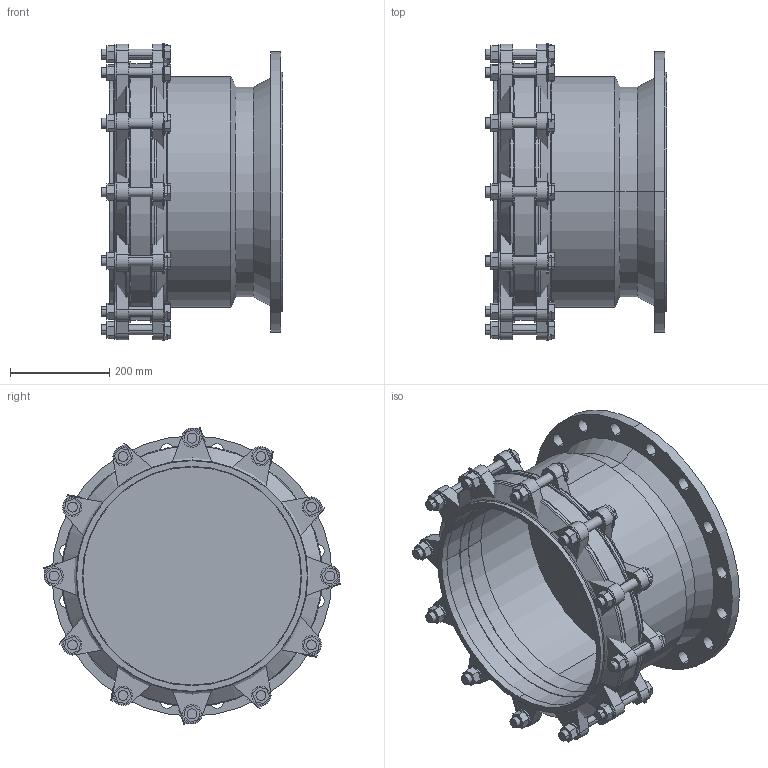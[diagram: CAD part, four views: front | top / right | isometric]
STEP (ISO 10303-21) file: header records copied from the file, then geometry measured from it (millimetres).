
FILE_DESCRIPTION(('STEP AP214'),'1');
FILE_NAME('EM000076 DN 400.STP','2015-01-29T14:19:23',(' '),(' '),'Spatial InterOp 3D',' ',' ');
FILE_SCHEMA(('automotive_design'));
Length unit declared in the file: millimetre
Products named in the file (58): 3D-Objekt
Bounding box: 366 x 599.72 x 599.72 mm (x, y, z)
Volume: 14238078.9 mm3; surface area: 2877764.3 mm2
Topology: 58 solids, 58 shells, 750 faces, 1756 edges, 1170 vertices
Faces by surface type: plane 524, cylinder 200, cone 14, torus 12
Entity records: 28861 total; most frequent: DIRECTION 3834, CARTESIAN_POINT 3734, ORIENTED_EDGE 3512, EDGE_CURVE 1756, LINE 1294, VECTOR 1294, AXIS2_PLACEMENT_3D 1270, VERTEX_POINT 1170
